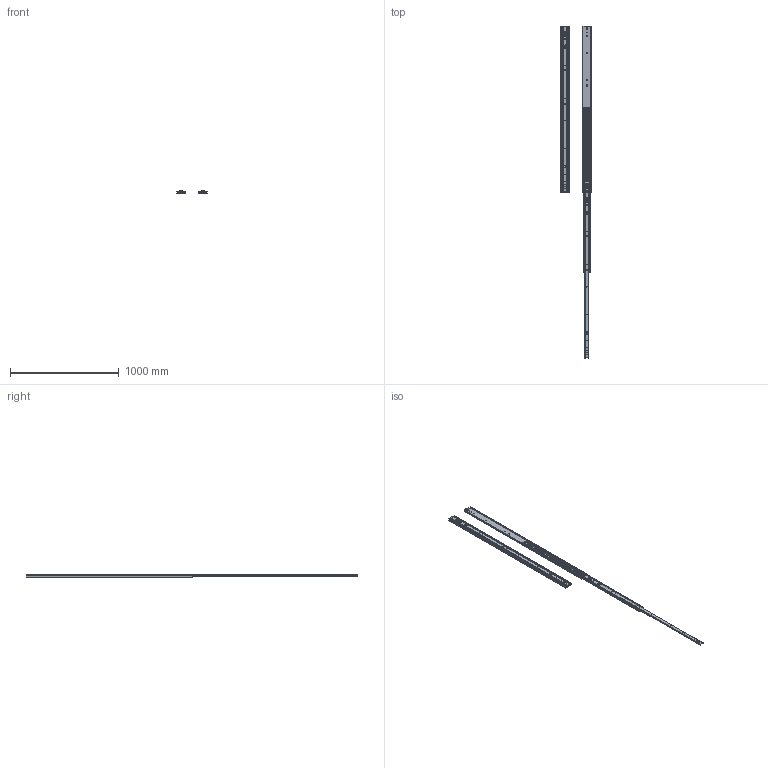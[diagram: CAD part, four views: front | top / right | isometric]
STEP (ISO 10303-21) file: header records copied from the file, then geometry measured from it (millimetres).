
FILE_DESCRIPTION((''),'2;1');
FILE_NAME('ASSEM1_1_2_3_4_5_6_7_8_9_10__27_ASM','2026-04-08T10:23:31',('T260078'),(''),'CREO PARAMETRIC BY PTC INC, 2025123','CREO PARAMETRIC BY PTC INC, 2025123','');
FILE_SCHEMA(('CONFIG_CONTROL_DESIGN','SHAPE_APPEARANCE_LAYERS_GROUPS'));
Length unit declared in the file: millimetre
Products named in the file (6): 76J01-60_X2_540B_X0_-M; 76J01-60_X2_540B_X0_-I; 76J01-60_X2_540B_X0_-O; 76J01-60_X2_540_X0__ASM; 76J01-60_X2_540B_X0_-_X2_5C5595_ASM; ASSEM1_1_2_3_4_5_6_7_8_9_10__27_ASM
Assembly tree (8 placements, depth 3):
  ASSEM1_1_2_3_4_5_6_7_8_9_10__27_ASM
    76J01-60_X2_540_X0__ASM
      76J01-60_X2_540B_X0_-M
      76J01-60_X2_540B_X0_-I
      76J01-60_X2_540B_X0_-O
    76J01-60_X2_540B_X0_-_X2_5C5595_ASM
      76J01-60_X2_540B_X0_-M
      76J01-60_X2_540B_X0_-I
      76J01-60_X2_540B_X0_-O
Bounding box: 276.6 x 3048 x 19.3 mm (x, y, z)
Volume: 1890375.1 mm3; surface area: 1683597.8 mm2
Topology: 6 solids, 6 shells, 408 faces, 1330 edges, 922 vertices
Faces by surface type: cylinder 240, plane 168
Entity records: 9100 total; most frequent: CARTESIAN_POINT 1439, DIRECTION 1361, ORIENTED_EDGE 1330, EDGE_CURVE 665, AXIS2_PLACEMENT_3D 495, VERTEX_POINT 461, VECTOR 371, LINE 371
